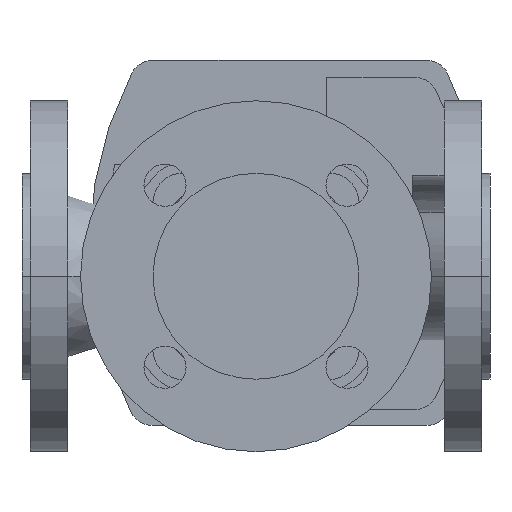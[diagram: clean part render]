
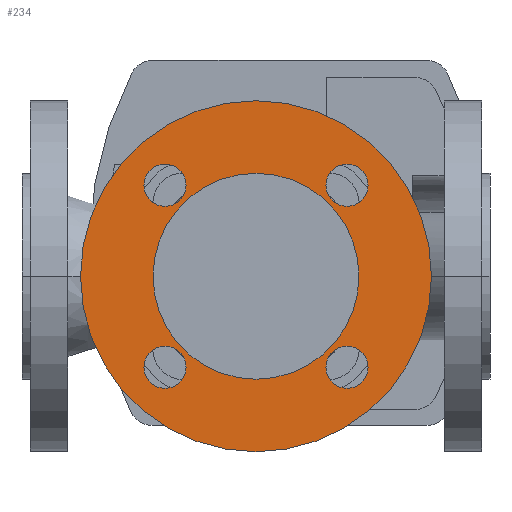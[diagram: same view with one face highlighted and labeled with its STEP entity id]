
A CAD part, front view. The second image highlights one B-rep face of the part: STEP entity #234.
In plain terms, the highlighted planar face has unit normal (0, -1, 0).
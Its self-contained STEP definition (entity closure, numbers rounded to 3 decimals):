
#234 = ADVANCED_FACE( '', ( #613, #614, #615, #616, #617, #618 ), #619, .F. );
#613 = FACE_BOUND( '', #1158, .T. );
#614 = FACE_BOUND( '', #1159, .T. );
#615 = FACE_BOUND( '', #1160, .T. );
#616 = FACE_BOUND( '', #1161, .T. );
#617 = FACE_OUTER_BOUND( '', #1162, .T. );
#618 = FACE_BOUND( '', #1163, .T. );
#619 = PLANE( '', #1164 );
#1158 = EDGE_LOOP( '', ( #2316, #2317 ) );
#1159 = EDGE_LOOP( '', ( #2318, #2319 ) );
#1160 = EDGE_LOOP( '', ( #2320, #2321 ) );
#1161 = EDGE_LOOP( '', ( #2322, #2323 ) );
#1162 = EDGE_LOOP( '', ( #2324, #2325 ) );
#1163 = EDGE_LOOP( '', ( #2326, #2327 ) );
#1164 = AXIS2_PLACEMENT_3D( '', #2328, #2329, #2330 );
#2316 = ORIENTED_EDGE( '', *, *, #3613, .T. );
#2317 = ORIENTED_EDGE( '', *, *, #3614, .T. );
#2318 = ORIENTED_EDGE( '', *, *, #3609, .T. );
#2319 = ORIENTED_EDGE( '', *, *, #3616, .T. );
#2320 = ORIENTED_EDGE( '', *, *, #3605, .T. );
#2321 = ORIENTED_EDGE( '', *, *, #3618, .T. );
#2322 = ORIENTED_EDGE( '', *, *, #3601, .T. );
#2323 = ORIENTED_EDGE( '', *, *, #3620, .T. );
#2324 = ORIENTED_EDGE( '', *, *, #3505, .F. );
#2325 = ORIENTED_EDGE( '', *, *, #3780, .F. );
#2326 = ORIENTED_EDGE( '', *, *, #3503, .F. );
#2327 = ORIENTED_EDGE( '', *, *, #3781, .F. );
#2328 = CARTESIAN_POINT( '', ( 100., -86.5, 0. ) );
#2329 = DIRECTION( '', ( 0., 1., 0. ) );
#2330 = DIRECTION( '', ( 0., 0., 1. ) );
#3503 = EDGE_CURVE( '', #4165, #4161, #4167, .T. );
#3505 = EDGE_CURVE( '', #4168, #4171, #4172, .T. );
#3601 = EDGE_CURVE( '', #4353, #4357, #4359, .T. );
#3605 = EDGE_CURVE( '', #4361, #4365, #4367, .T. );
#3609 = EDGE_CURVE( '', #4369, #4373, #4375, .T. );
#3613 = EDGE_CURVE( '', #4377, #4381, #4383, .T. );
#3614 = EDGE_CURVE( '', #4381, #4377, #4384, .T. );
#3616 = EDGE_CURVE( '', #4373, #4369, #4386, .T. );
#3618 = EDGE_CURVE( '', #4365, #4361, #4388, .T. );
#3620 = EDGE_CURVE( '', #4357, #4353, #4390, .T. );
#3780 = EDGE_CURVE( '', #4171, #4168, #4626, .T. );
#3781 = EDGE_CURVE( '', #4161, #4165, #4627, .T. );
#4161 = VERTEX_POINT( '', #5398 );
#4165 = VERTEX_POINT( '', #5403 );
#4167 = CIRCLE( '', #5406, 44. );
#4168 = VERTEX_POINT( '', #5407 );
#4171 = VERTEX_POINT( '', #5411 );
#4172 = CIRCLE( '', #5412, 75. );
#4353 = VERTEX_POINT( '', #6016 );
#4357 = VERTEX_POINT( '', #6021 );
#4359 = CIRCLE( '', #6024, 9. );
#4361 = VERTEX_POINT( '', #6026 );
#4365 = VERTEX_POINT( '', #6031 );
#4367 = CIRCLE( '', #6034, 9. );
#4369 = VERTEX_POINT( '', #6036 );
#4373 = VERTEX_POINT( '', #6041 );
#4375 = CIRCLE( '', #6044, 9. );
#4377 = VERTEX_POINT( '', #6046 );
#4381 = VERTEX_POINT( '', #6051 );
#4383 = CIRCLE( '', #6054, 9. );
#4384 = CIRCLE( '', #6055, 9. );
#4386 = CIRCLE( '', #6057, 9. );
#4388 = CIRCLE( '', #6059, 9. );
#4390 = CIRCLE( '', #6061, 9. );
#4626 = CIRCLE( '', #6642, 75. );
#4627 = CIRCLE( '', #6643, 44. );
#5398 = CARTESIAN_POINT( '', ( 144., -86.5, 0. ) );
#5403 = CARTESIAN_POINT( '', ( 56., -86.5, 0. ) );
#5406 = AXIS2_PLACEMENT_3D( '', #7472, #7473, #7474 );
#5407 = CARTESIAN_POINT( '', ( 175., -86.5, 0. ) );
#5411 = CARTESIAN_POINT( '', ( 25., -86.5, 0. ) );
#5412 = AXIS2_PLACEMENT_3D( '', #7476, #7477, #7478 );
#6016 = CARTESIAN_POINT( '', ( 52.109, -86.5, -38.891 ) );
#6021 = CARTESIAN_POINT( '', ( 70.109, -86.5, -38.891 ) );
#6024 = AXIS2_PLACEMENT_3D( '', #7667, #7668, #7669 );
#6026 = CARTESIAN_POINT( '', ( 52.109, -86.5, 38.891 ) );
#6031 = CARTESIAN_POINT( '', ( 70.109, -86.5, 38.891 ) );
#6034 = AXIS2_PLACEMENT_3D( '', #7675, #7676, #7677 );
#6036 = CARTESIAN_POINT( '', ( 129.891, -86.5, 38.891 ) );
#6041 = CARTESIAN_POINT( '', ( 147.891, -86.5, 38.891 ) );
#6044 = AXIS2_PLACEMENT_3D( '', #7683, #7684, #7685 );
#6046 = CARTESIAN_POINT( '', ( 129.891, -86.5, -38.891 ) );
#6051 = CARTESIAN_POINT( '', ( 147.891, -86.5, -38.891 ) );
#6054 = AXIS2_PLACEMENT_3D( '', #7691, #7692, #7693 );
#6055 = AXIS2_PLACEMENT_3D( '', #7694, #7695, #7696 );
#6057 = AXIS2_PLACEMENT_3D( '', #7700, #7701, #7702 );
#6059 = AXIS2_PLACEMENT_3D( '', #7706, #7707, #7708 );
#6061 = AXIS2_PLACEMENT_3D( '', #7712, #7713, #7714 );
#6642 = AXIS2_PLACEMENT_3D( '', #8004, #8005, #8006 );
#6643 = AXIS2_PLACEMENT_3D( '', #8007, #8008, #8009 );
#7472 = CARTESIAN_POINT( '', ( 100., -86.5, 0. ) );
#7473 = DIRECTION( '', ( 0., -1., 0. ) );
#7474 = DIRECTION( '', ( 1., 0., 0. ) );
#7476 = CARTESIAN_POINT( '', ( 100., -86.5, 0. ) );
#7477 = DIRECTION( '', ( 0., 1., 0. ) );
#7478 = DIRECTION( '', ( 1., 0., 0. ) );
#7667 = CARTESIAN_POINT( '', ( 61.109, -86.5, -38.891 ) );
#7668 = DIRECTION( '', ( 0., 1., 0. ) );
#7669 = DIRECTION( '', ( -1., 0., 0. ) );
#7675 = CARTESIAN_POINT( '', ( 61.109, -86.5, 38.891 ) );
#7676 = DIRECTION( '', ( 0., 1., 0. ) );
#7677 = DIRECTION( '', ( -1., 0., 0. ) );
#7683 = CARTESIAN_POINT( '', ( 138.891, -86.5, 38.891 ) );
#7684 = DIRECTION( '', ( 0., 1., 0. ) );
#7685 = DIRECTION( '', ( -1., 0., 0. ) );
#7691 = CARTESIAN_POINT( '', ( 138.891, -86.5, -38.891 ) );
#7692 = DIRECTION( '', ( 0., 1., 0. ) );
#7693 = DIRECTION( '', ( -1., 0., 0. ) );
#7694 = CARTESIAN_POINT( '', ( 138.891, -86.5, -38.891 ) );
#7695 = DIRECTION( '', ( 0., 1., 0. ) );
#7696 = DIRECTION( '', ( -1., 0., 0. ) );
#7700 = CARTESIAN_POINT( '', ( 138.891, -86.5, 38.891 ) );
#7701 = DIRECTION( '', ( 0., 1., 0. ) );
#7702 = DIRECTION( '', ( -1., 0., 0. ) );
#7706 = CARTESIAN_POINT( '', ( 61.109, -86.5, 38.891 ) );
#7707 = DIRECTION( '', ( 0., 1., 0. ) );
#7708 = DIRECTION( '', ( -1., 0., 0. ) );
#7712 = CARTESIAN_POINT( '', ( 61.109, -86.5, -38.891 ) );
#7713 = DIRECTION( '', ( 0., 1., 0. ) );
#7714 = DIRECTION( '', ( -1., 0., 0. ) );
#8004 = CARTESIAN_POINT( '', ( 100., -86.5, 0. ) );
#8005 = DIRECTION( '', ( 0., 1., 0. ) );
#8006 = DIRECTION( '', ( 1., 0., 0. ) );
#8007 = CARTESIAN_POINT( '', ( 100., -86.5, 0. ) );
#8008 = DIRECTION( '', ( 0., -1., 0. ) );
#8009 = DIRECTION( '', ( 1., 0., 0. ) );
